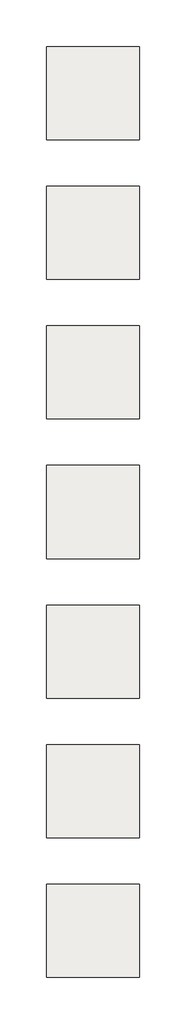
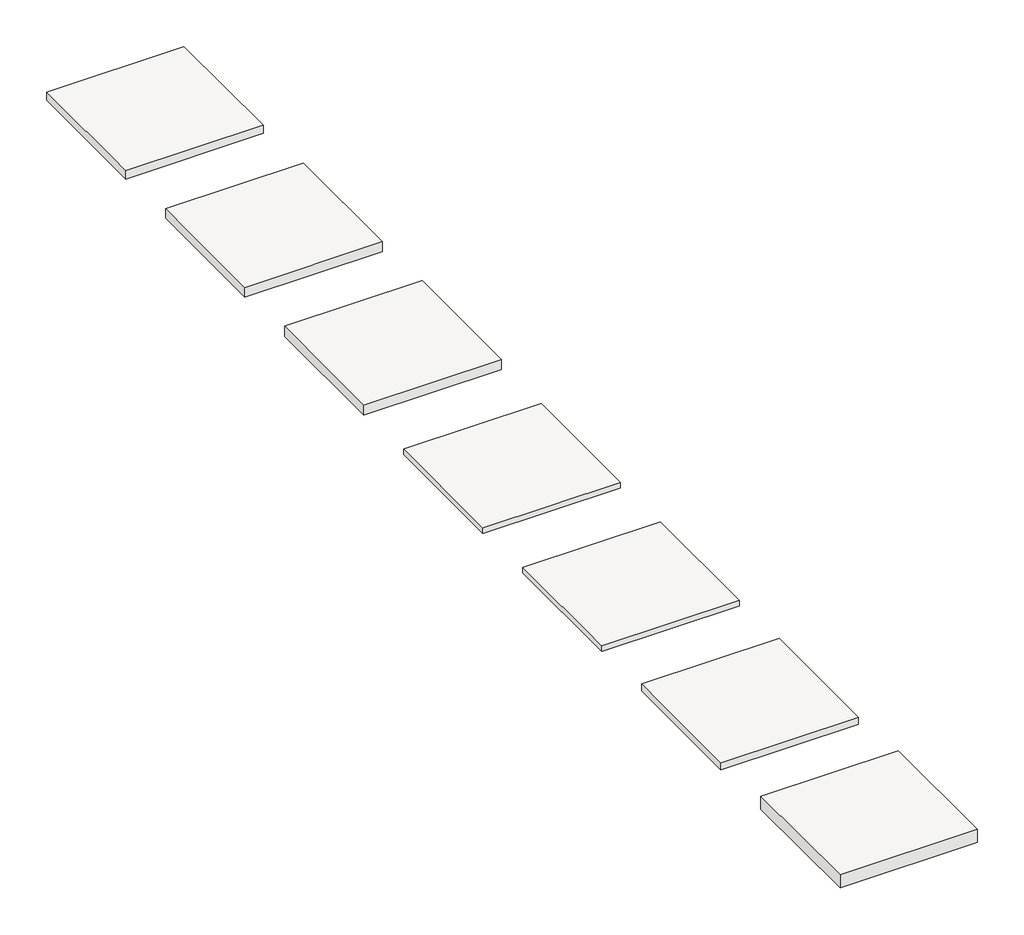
# One storey: 7 coverings.
"""IFC4 building model written with IfcOpenShell, lengths in millimetres."""

import ifcopenshell
import ifcopenshell.guid

model = None  # the IFC model being written
_history = None  # IfcOwnerHistory: only IFC2X3 demands one
_inside = {}  # id of a spatial element -> (the spatial element, [elements in it])
_under = {}  # id of a project, library or spatial element -> (it, [spatial elements below it])
_declared = {}  # id of a project -> (the project, [libraries it declares])
_typed = {}  # id of a type object -> (the type object, [elements of that type])
_made_of = {}  # id of a material, layer set ... -> (it, [elements and type objects made of it])


def new_model(schema):
    """Start an empty IFC model of exactly this schema.

    Asked for "IFC4X3", IfcOpenShell would pick the latest addendum, in which some entities
    have other attributes; the version numbers below select the first issue.
    IFC2X3 requires an IfcOwnerHistory on every rooted entity: one is made here for all.
    """
    global model, _history
    if schema == "IFC4X3":
        model = ifcopenshell.file(schema_version=(4, 3, 0, 0))
    else:
        model = ifcopenshell.file(schema=schema)
    _inside.clear()
    _under.clear()
    _declared.clear()
    _typed.clear()
    _made_of.clear()
    _history = None
    if model.schema == "IFC2X3":
        org = make("IfcOrganization", Name="unknown")
        user = make(
            "IfcPersonAndOrganization",
            ThePerson=make("IfcPerson", FamilyName="unknown"),
            TheOrganization=org,
        )
        app = make(
            "IfcApplication",
            ApplicationDeveloper=org,
            Version="unknown",
            ApplicationFullName="unknown",
            ApplicationIdentifier="unknown",
        )
        _history = make(
            "IfcOwnerHistory",
            OwningUser=user,
            OwningApplication=app,
            ChangeAction="ADDED",
            CreationDate=0,
        )
    return model


def make(cls, **values):
    """One entity of the class cls with the attributes given. An attribute that is None is left unset."""
    return model.create_entity(
        cls, **{name: value for name, value in values.items() if value is not None}
    )


def rooted(cls, **values):
    """An entity with a GlobalId (a new one), such as an element, a storey or a relation."""
    return make(cls, GlobalId=ifcopenshell.guid.new(), OwnerHistory=_history, **values)


def si_unit(unit_type, name, prefix=None):
    """IfcSIUnit, for example si_unit("LENGTHUNIT", "METRE", prefix="MILLI")."""
    return make("IfcSIUnit", UnitType=unit_type, Prefix=prefix, Name=name)


def assignment(units):
    """IfcUnitAssignment: the units of a project."""
    return None if units is None else make("IfcUnitAssignment", Units=units)


def point(xyz):
    """IfcCartesianPoint."""
    return None if xyz is None else make("IfcCartesianPoint", Coordinates=xyz)


def direction(xyz):
    """IfcDirection."""
    return None if xyz is None else make("IfcDirection", DirectionRatios=xyz)


def frame(location, z_axis=None, x_axis=None):
    """IfcAxis2Placement3D, a coordinate frame: its origin and axes. An axis left out is left unset."""
    return make(
        "IfcAxis2Placement3D",
        Location=point(location),
        Axis=direction(z_axis),
        RefDirection=direction(x_axis),
    )


def origin():
    """The frame at (0, 0, 0) with its axes left unset."""
    return frame((0.0, 0.0, 0.0))


def place(relative_to, where):
    """IfcLocalPlacement: puts the frame where relative to a parent placement (None: the world)."""
    return make(
        "IfcLocalPlacement", PlacementRelTo=relative_to, RelativePlacement=where
    )


def context(
    kind, dimensions, precision=None, world=None, true_north=None, identifier=None
):
    """IfcGeometricRepresentationContext, for example the 3D "Model" context."""
    return make(
        "IfcGeometricRepresentationContext",
        ContextIdentifier=identifier,
        ContextType=kind,
        CoordinateSpaceDimension=dimensions,
        Precision=precision,
        WorldCoordinateSystem=world,
        TrueNorth=true_north,
    )


def project(units=None, contexts=None):
    """IfcProject with its units and contexts."""
    return rooted(
        "IfcProject",
        Name="project",
        RepresentationContexts=contexts,
        UnitsInContext=assignment(units),
    )


def spatial(cls, under=None, at=None, **own):
    """A site, building, storey or space (cls), placed at a placement, below another one or the project."""
    s = rooted(cls, ObjectPlacement=at, **own)
    if under is not None:
        _under.setdefault(under.id(), (under, []))[1].append(s)
    return s


def polyline(points):
    """IfcPolyline through the points."""
    return make("IfcPolyline", Points=[point(p) for p in points])


def outline(outer, holes=None, kind="AREA"):
    """IfcArbitraryClosedProfileDef: a profile drawn as a closed curve; with holes, ...WithVoids."""
    if holes is None:
        return make("IfcArbitraryClosedProfileDef", ProfileType=kind, OuterCurve=outer)
    return make(
        "IfcArbitraryProfileDefWithVoids",
        ProfileType=kind,
        OuterCurve=outer,
        InnerCurves=holes,
    )


def extrude(swept, where, along, depth):
    """IfcExtrudedAreaSolid: the profile swept, set in the frame where, extruded along a direction by depth."""
    return make(
        "IfcExtrudedAreaSolid",
        SweptArea=swept,
        Position=where,
        ExtrudedDirection=direction(along),
        Depth=depth,
    )


def shape(context_of_items, identifier, shape_type, items):
    """IfcShapeRepresentation: the items that make up one representation, for example the "Body"."""
    return make(
        "IfcShapeRepresentation",
        ContextOfItems=context_of_items,
        RepresentationIdentifier=identifier,
        RepresentationType=shape_type,
        Items=items,
    )


def made_of(thing, what):
    """Note that an element or type object is made of a material, layer set ...; save() writes the relation."""
    if what is not None:
        _made_of.setdefault(what.id(), (what, []))[1].append(thing)
    return thing


def element(
    cls,
    number,
    at=None,
    inside=None,
    cuts=None,
    type_object=None,
    material=None,
    context=None,
    identifier="Body",
    shape_type=None,
    held_by="IfcProductDefinitionShape",
    body=None,
    shapes=None,
    **own,
):
    """One element of the class cls, such as IfcWall. Its Tag is "e" and its number.

    at: its placement. inside: the storey or other place that contains it. cuts: it is an
    opening in that element (IfcRelVoidsElement). A single representation is given by context,
    identifier, shape_type and body (its items); several are given by shapes. held_by: the class
    of the entity that holds the representations. save() writes the other relations.
    """
    e = rooted(cls, Tag="e%d" % number, ObjectPlacement=at, **own)
    if body is not None:
        shapes = [shape(context, identifier, shape_type, body)]
    if shapes is not None:
        e.Representation = make(held_by, Representations=shapes)
    if inside is not None:
        _inside.setdefault(inside.id(), (inside, []))[1].append(e)
    if cuts is not None:
        rooted(
            "IfcRelVoidsElement", RelatingBuildingElement=cuts, RelatedOpeningElement=e
        )
    if type_object is not None:
        _typed.setdefault(type_object.id(), (type_object, []))[1].append(e)
    return made_of(e, material)


def aggregate(whole, parts):
    """IfcRelAggregates: a whole, such as a stair, and the parts it consists of."""
    return rooted("IfcRelAggregates", RelatingObject=whole, RelatedObjects=parts)


def save(model, path):
    """Write the relations noted so far, then the file.

    IfcRelAggregates (storeys below a building ...), IfcRelContainedInSpatialStructure (elements
    in a storey), IfcRelDefinesByType, IfcRelAssociatesMaterial and IfcRelDeclares: one each for
    every whole, place, type object, material and project.
    """
    for whole, parts in _under.values():
        aggregate(whole, parts)
    for where, things in _inside.values():
        rooted(
            "IfcRelContainedInSpatialStructure",
            RelatedElements=things,
            RelatingStructure=where,
        )
    for kind, things in _typed.values():
        rooted("IfcRelDefinesByType", RelatedObjects=things, RelatingType=kind)
    for what, things in _made_of.values():
        rooted("IfcRelAssociatesMaterial", RelatedObjects=things, RelatingMaterial=what)
    for by, libraries in _declared.values():
        rooted("IfcRelDeclares", RelatingContext=by, RelatedDefinitions=libraries)
    model.write(path)


model = new_model("IFC4")

# Units and contexts
model_context = context("Model", 3, world=origin())
ifc_project = project(units=[si_unit("LENGTHUNIT", "METRE", prefix="MILLI")], contexts=[model_context])

# Site, building, storey
site = spatial("IfcSite", under=ifc_project)
building = spatial("IfcBuilding", under=site)
storey = spatial("IfcBuildingStorey", under=building, Name="5_Apšūti_griesti", Elevation=16000.0)

# Coverings
placement = place(None, origin())
element("IfcCovering", 1, ObjectType="RIGIPS - 4.05.13 - EI 15, REI 15 - 27dB", at=placement, inside=storey, context=model_context, shape_type="SweptSolid", body=[
    extrude(outline(polyline([(13000.0, 16606.25), (13000.0, 15606.25), (12000.0, 15606.25), (12000.0, 16606.25), (13000.0, 16606.25)])), frame((0.0, 0.0, 16000.0), z_axis=(0.0, 0.0, 1.0), x_axis=(1.0, 0.0, 0.0)), (0.0, 0.0, 1.0), 62.5),
])
element("IfcCovering", 2, ObjectType="RIGIPS - 4.05.15 - EI 30, REI 30 - 30dB", at=placement, inside=storey, context=model_context, shape_type="SweptSolid", body=[
    extrude(outline(polyline([(13000.0, 15106.25), (13000.0, 14106.25), (12000.0, 14106.25), (12000.0, 15106.25), (13000.0, 15106.25)])), frame((0.0, 0.0, 16000.0), z_axis=(0.0, 0.0, 1.0), x_axis=(1.0, 0.0, 0.0)), (0.0, 0.0, 1.0), 75.0),
])
element("IfcCovering", 3, ObjectType="RIGIPS - 4.05.17 - EI 60, REI 60 - 30dB", at=placement, inside=storey, context=model_context, shape_type="SweptSolid", body=[
    extrude(outline(polyline([(13000.0, 13606.25), (13000.0, 12606.25), (12000.0, 12606.25), (12000.0, 13606.25), (13000.0, 13606.25)])), frame((0.0, 0.0, 16000.0), z_axis=(0.0, 0.0, 1.0), x_axis=(1.0, 0.0, 0.0)), (0.0, 0.0, 1.0), 80.0),
])
element("IfcCovering", 4, ObjectType="RIGIPS - 4.05.22 - 27dB (1000)", at=placement, inside=storey, context=model_context, shape_type="SweptSolid", body=[
    extrude(outline(polyline([(13000.0, 12106.25), (13000.0, 11106.25), (12000.0, 11106.25), (12000.0, 12106.25), (13000.0, 12106.25)])), frame((0.0, 0.0, 16000.0), z_axis=(0.0, 0.0, 1.0), x_axis=(1.0, 0.0, 0.0)), (0.0, 0.0, 1.0), 42.5),
])
element("IfcCovering", 5, ObjectType="RIGIPS - 4.05.22 - 27dB (750)", at=placement, inside=storey, context=model_context, shape_type="SweptSolid", body=[
    extrude(outline(polyline([(13000.0, 10606.25), (13000.0, 9606.25), (12000.0, 9606.25), (12000.0, 10606.25), (13000.0, 10606.25)])), frame((0.0, 0.0, 16000.0), z_axis=(0.0, 0.0, 1.0), x_axis=(1.0, 0.0, 0.0)), (0.0, 0.0, 1.0), 42.5),
])
element("IfcCovering", 6, ObjectType="RIGIPS - 4.05.22 - 30dB (1000)", at=placement, inside=storey, context=model_context, shape_type="SweptSolid", body=[
    extrude(outline(polyline([(13000.0, 9106.25), (13000.0, 8106.25), (12000.0, 8106.25), (12000.0, 9106.25), (13000.0, 9106.25)])), frame((0.0, 0.0, 16000.0), z_axis=(0.0, 0.0, 1.0), x_axis=(1.0, 0.0, 0.0)), (0.0, 0.0, 1.0), 55.0),
])
element("IfcCovering", 7, ObjectType="RIGIPS - 4.05.29 - EI 120, REI 120 - 30dB", at=placement, inside=storey, context=model_context, shape_type="SweptSolid", body=[
    extrude(outline(polyline([(13000.0, 7606.25), (13000.0, 6606.25), (12000.0, 6606.25), (12000.0, 7606.25), (13000.0, 7606.25)])), frame((0.0, 0.0, 16000.0), z_axis=(0.0, 0.0, 1.0), x_axis=(1.0, 0.0, 0.0)), (0.0, 0.0, 1.0), 100.0),
])

save(model, "model.ifc")
